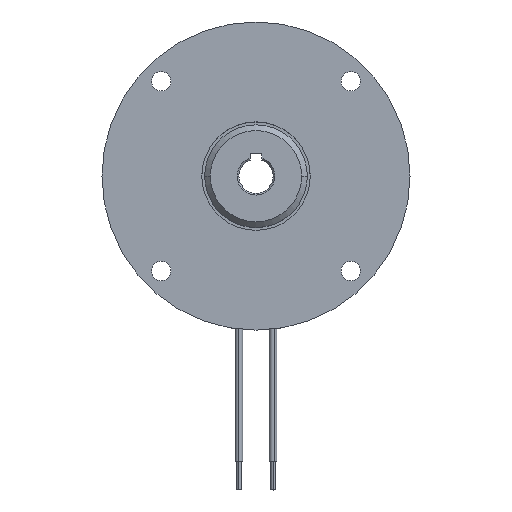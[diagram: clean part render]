
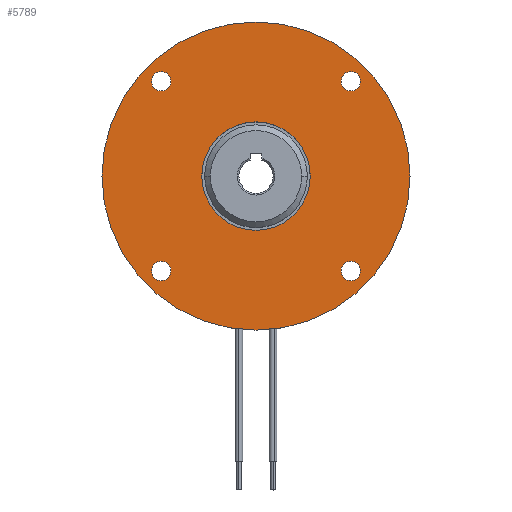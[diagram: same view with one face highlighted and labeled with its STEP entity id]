
A CAD part, top view. The second image highlights one B-rep face of the part: STEP entity #5789.
In plain terms, the highlighted planar face has unit normal (0, 0, 1).
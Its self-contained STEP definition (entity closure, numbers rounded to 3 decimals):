
#2 = AXIS2_PLACEMENT_3D ( 'NONE', #5414, #1445, #2936 ) ;
#53 = VERTEX_POINT ( 'NONE', #3719 ) ;
#98 = EDGE_CURVE ( 'NONE', #6435, #4097, #6705, .T. ) ;
#99 = AXIS2_PLACEMENT_3D ( 'NONE', #1317, #7111, #1974 ) ;
#248 = AXIS2_PLACEMENT_3D ( 'NONE', #6647, #4550, #1612 ) ;
#433 = AXIS2_PLACEMENT_3D ( 'NONE', #1902, #4201, #6474 ) ;
#461 = CARTESIAN_POINT ( 'NONE',  ( 16.617, 16.617, 0. ) ) ;
#505 = ORIENTED_EDGE ( 'NONE', *, *, #1278, .F. ) ;
#546 = AXIS2_PLACEMENT_3D ( 'NONE', #7121, #1983, #3531 ) ;
#619 = ORIENTED_EDGE ( 'NONE', *, *, #2058, .T. ) ;
#669 = FACE_BOUND ( 'NONE', #7124, .T. ) ;
#770 = CARTESIAN_POINT ( 'NONE',  ( 0., 0., 0. ) ) ;
#792 = CIRCLE ( 'NONE', #546, 1.7 ) ;
#809 = CARTESIAN_POINT ( 'NONE',  ( -14.917, -16.617, 0. ) ) ;
#987 = AXIS2_PLACEMENT_3D ( 'NONE', #1535, #7221, #6698 ) ;
#997 = EDGE_LOOP ( 'NONE', ( #1564, #4952 ) ) ;
#1061 = CIRCLE ( 'NONE', #2737, 27. ) ;
#1106 = DIRECTION ( 'NONE',  ( -1., 0., 0. ) ) ;
#1139 = VERTEX_POINT ( 'NONE', #3329 ) ;
#1184 = CIRCLE ( 'NONE', #3452, 27. ) ;
#1195 = CARTESIAN_POINT ( 'NONE',  ( -18.317, 16.617, 0. ) ) ;
#1278 = EDGE_CURVE ( 'NONE', #1139, #2874, #1184, .T. ) ;
#1287 = ORIENTED_EDGE ( 'NONE', *, *, #7085, .T. ) ;
#1317 = CARTESIAN_POINT ( 'NONE',  ( -16.617, -16.617, 0. ) ) ;
#1356 = CARTESIAN_POINT ( 'NONE',  ( 9.5, 0., 0. ) ) ;
#1422 = CARTESIAN_POINT ( 'NONE',  ( 0., 27., 0. ) ) ;
#1445 = DIRECTION ( 'NONE',  ( 0., 0., -1. ) ) ;
#1495 = ORIENTED_EDGE ( 'NONE', *, *, #5120, .T. ) ;
#1535 = CARTESIAN_POINT ( 'NONE',  ( 16.617, -16.617, 0. ) ) ;
#1564 = ORIENTED_EDGE ( 'NONE', *, *, #2567, .T. ) ;
#1568 = DIRECTION ( 'NONE',  ( 0., 0., -1. ) ) ;
#1612 = DIRECTION ( 'NONE',  ( -1., 0., 0. ) ) ;
#1836 = ORIENTED_EDGE ( 'NONE', *, *, #3036, .T. ) ;
#1860 = PLANE ( 'NONE',  #7030 ) ;
#1902 = CARTESIAN_POINT ( 'NONE',  ( -16.617, 16.617, 0. ) ) ;
#1974 = DIRECTION ( 'NONE',  ( -1., 0., 0. ) ) ;
#1983 = DIRECTION ( 'NONE',  ( 0., 0., -1. ) ) ;
#2058 = EDGE_CURVE ( 'NONE', #53, #5341, #2617, .T. ) ;
#2126 = VERTEX_POINT ( 'NONE', #809 ) ;
#2253 = AXIS2_PLACEMENT_3D ( 'NONE', #2654, #3753, #3717 ) ;
#2270 = CIRCLE ( 'NONE', #2, 9.5 ) ;
#2435 = EDGE_CURVE ( 'NONE', #5341, #53, #4210, .T. ) ;
#2472 = EDGE_LOOP ( 'NONE', ( #1836, #1495 ) ) ;
#2567 = EDGE_CURVE ( 'NONE', #5812, #4093, #3547, .T. ) ;
#2617 = CIRCLE ( 'NONE', #3326, 1.7 ) ;
#2632 = CARTESIAN_POINT ( 'NONE',  ( -14.917, 16.617, 0. ) ) ;
#2642 = CARTESIAN_POINT ( 'NONE',  ( 18.317, 16.617, 0. ) ) ;
#2653 = DIRECTION ( 'NONE',  ( 0., 0., -1. ) ) ;
#2654 = CARTESIAN_POINT ( 'NONE',  ( -16.617, -16.617, 0. ) ) ;
#2737 = AXIS2_PLACEMENT_3D ( 'NONE', #770, #3500, #3067 ) ;
#2762 = EDGE_LOOP ( 'NONE', ( #505, #2806 ) ) ;
#2806 = ORIENTED_EDGE ( 'NONE', *, *, #5990, .F. ) ;
#2874 = VERTEX_POINT ( 'NONE', #2902 ) ;
#2902 = CARTESIAN_POINT ( 'NONE',  ( 27., 0., 0. ) ) ;
#2936 = DIRECTION ( 'NONE',  ( -1., 0., 0. ) ) ;
#2995 = DIRECTION ( 'NONE',  ( 0., 0., -1. ) ) ;
#3036 = EDGE_CURVE ( 'NONE', #5873, #5822, #6894, .T. ) ;
#3067 = DIRECTION ( 'NONE',  ( -1., 0., 0. ) ) ;
#3222 = CARTESIAN_POINT ( 'NONE',  ( 14.917, -16.617, 0. ) ) ;
#3246 = EDGE_CURVE ( 'NONE', #4093, #5812, #3319, .T. ) ;
#3319 = CIRCLE ( 'NONE', #987, 1.7 ) ;
#3324 = CIRCLE ( 'NONE', #2253, 1.7 ) ;
#3326 = AXIS2_PLACEMENT_3D ( 'NONE', #6493, #2995, #4808 ) ;
#3329 = CARTESIAN_POINT ( 'NONE',  ( -27., 0., 0. ) ) ;
#3452 = AXIS2_PLACEMENT_3D ( 'NONE', #4256, #2653, #5971 ) ;
#3500 = DIRECTION ( 'NONE',  ( 0., 0., -1. ) ) ;
#3513 = FACE_BOUND ( 'NONE', #6745, .T. ) ;
#3531 = DIRECTION ( 'NONE',  ( -1., 0., 0. ) ) ;
#3547 = CIRCLE ( 'NONE', #4864, 1.7 ) ;
#3550 = ORIENTED_EDGE ( 'NONE', *, *, #98, .T. ) ;
#3588 = FACE_BOUND ( 'NONE', #2472, .T. ) ;
#3602 = EDGE_CURVE ( 'NONE', #4097, #6435, #2270, .T. ) ;
#3717 = DIRECTION ( 'NONE',  ( -1., 0., 0. ) ) ;
#3719 = CARTESIAN_POINT ( 'NONE',  ( 14.917, 16.617, 0. ) ) ;
#3729 = DIRECTION ( 'NONE',  ( -1., 0., 0. ) ) ;
#3753 = DIRECTION ( 'NONE',  ( 0., 0., -1. ) ) ;
#4015 = DIRECTION ( 'NONE',  ( 0., 0., -1. ) ) ;
#4091 = CARTESIAN_POINT ( 'NONE',  ( 16.617, -16.617, 0. ) ) ;
#4093 = VERTEX_POINT ( 'NONE', #6389 ) ;
#4097 = VERTEX_POINT ( 'NONE', #4680 ) ;
#4166 = VERTEX_POINT ( 'NONE', #6576 ) ;
#4201 = DIRECTION ( 'NONE',  ( 0., 0., -1. ) ) ;
#4210 = CIRCLE ( 'NONE', #4325, 1.7 ) ;
#4256 = CARTESIAN_POINT ( 'NONE',  ( 0., 0., 0. ) ) ;
#4308 = EDGE_LOOP ( 'NONE', ( #7257, #1287 ) ) ;
#4325 = AXIS2_PLACEMENT_3D ( 'NONE', #461, #6102, #1106 ) ;
#4550 = DIRECTION ( 'NONE',  ( 0., 0., -1. ) ) ;
#4614 = DIRECTION ( 'NONE',  ( -1., 0., 0. ) ) ;
#4680 = CARTESIAN_POINT ( 'NONE',  ( -9.5, 0., 0. ) ) ;
#4719 = FACE_BOUND ( 'NONE', #997, .T. ) ;
#4808 = DIRECTION ( 'NONE',  ( -1., 0., 0. ) ) ;
#4864 = AXIS2_PLACEMENT_3D ( 'NONE', #4091, #4015, #4614 ) ;
#4952 = ORIENTED_EDGE ( 'NONE', *, *, #3246, .T. ) ;
#5120 = EDGE_CURVE ( 'NONE', #5822, #5873, #792, .T. ) ;
#5341 = VERTEX_POINT ( 'NONE', #2642 ) ;
#5414 = CARTESIAN_POINT ( 'NONE',  ( 0., 0., 0. ) ) ;
#5459 = ORIENTED_EDGE ( 'NONE', *, *, #2435, .T. ) ;
#5642 = ORIENTED_EDGE ( 'NONE', *, *, #3602, .T. ) ;
#5700 = CIRCLE ( 'NONE', #99, 1.7 ) ;
#5789 = ADVANCED_FACE ( 'NONE', ( #3513, #4719, #7000, #3588, #5797, #669 ), #1860, .F. ) ;
#5797 = FACE_OUTER_BOUND ( 'NONE', #2762, .T. ) ;
#5812 = VERTEX_POINT ( 'NONE', #3222 ) ;
#5822 = VERTEX_POINT ( 'NONE', #2632 ) ;
#5873 = VERTEX_POINT ( 'NONE', #1195 ) ;
#5971 = DIRECTION ( 'NONE',  ( -1., 0., 0. ) ) ;
#5990 = EDGE_CURVE ( 'NONE', #2874, #1139, #1061, .T. ) ;
#6102 = DIRECTION ( 'NONE',  ( 0., 0., -1. ) ) ;
#6389 = CARTESIAN_POINT ( 'NONE',  ( 18.317, -16.617, 0. ) ) ;
#6435 = VERTEX_POINT ( 'NONE', #1356 ) ;
#6474 = DIRECTION ( 'NONE',  ( -1., 0., 0. ) ) ;
#6493 = CARTESIAN_POINT ( 'NONE',  ( 16.617, 16.617, 0. ) ) ;
#6576 = CARTESIAN_POINT ( 'NONE',  ( -18.317, -16.617, 0. ) ) ;
#6647 = CARTESIAN_POINT ( 'NONE',  ( 0., 0., 0. ) ) ;
#6683 = EDGE_CURVE ( 'NONE', #4166, #2126, #5700, .T. ) ;
#6698 = DIRECTION ( 'NONE',  ( -1., 0., 0. ) ) ;
#6705 = CIRCLE ( 'NONE', #248, 9.5 ) ;
#6745 = EDGE_LOOP ( 'NONE', ( #619, #5459 ) ) ;
#6894 = CIRCLE ( 'NONE', #433, 1.7 ) ;
#7000 = FACE_BOUND ( 'NONE', #4308, .T. ) ;
#7030 = AXIS2_PLACEMENT_3D ( 'NONE', #1422, #1568, #3729 ) ;
#7085 = EDGE_CURVE ( 'NONE', #2126, #4166, #3324, .T. ) ;
#7111 = DIRECTION ( 'NONE',  ( 0., 0., -1. ) ) ;
#7121 = CARTESIAN_POINT ( 'NONE',  ( -16.617, 16.617, 0. ) ) ;
#7124 = EDGE_LOOP ( 'NONE', ( #5642, #3550 ) ) ;
#7221 = DIRECTION ( 'NONE',  ( 0., 0., -1. ) ) ;
#7257 = ORIENTED_EDGE ( 'NONE', *, *, #6683, .T. ) ;
